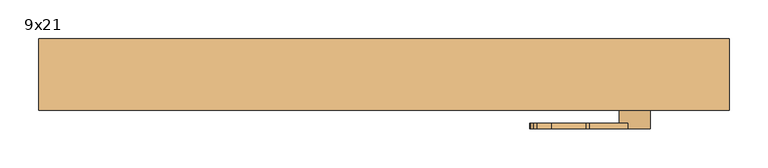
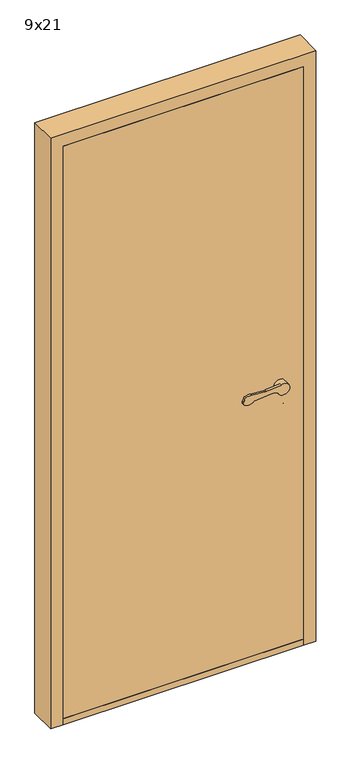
"""IFC4 building model written with IfcOpenShell, lengths in millimetres: door geometry, Innerdør Slett (Diplomat) : 9x21."""

from ifc_helpers import new_model, si_unit, point, frame, frame_2d, origin, origin_with_axes, place, context, project, spatial, polyline, circle_curve, trimmed, segment, composite_curve, outline, extrude, source, transform, mapped, element, save
from ifc_brep_helpers import plane_surface, cylinder_surface, revolved_surface, advanced_brep


def door_9x21_90b0ac62(model_context):
    return source(origin(), model_context, "Body", "SolidModel", [
        advanced_brep(
        [(343.9611305, 9.0, 949.1175955), (338.8520664, 9.0, 949.9496913), (276.0476109, 9.0, 943.6260011), (246.721536, 9.0, 938.7393398), (241.8691983, 9.0, 951.8913379), (245.505009, 9.0, 959.9624074), (250.3175669, 9.0, 964.8810513), (268.8963175, 9.0, 967.2639242), (313.6202158, 9.0, 964.1804415), (318.6891233, 9.0, 964.26032), (367.2687793, 9.0, 969.1517356), (396.379633, 9.0, 951.3474568), (358.3841161, 9.0, 942.6204086), (318.6891233, 1.8915284, 964.26032), (313.6202158, 1.8915284, 964.1804415), (268.8963175, 1.8915284, 967.2639242), (250.3175669, 1.8915284, 964.8810513), (245.505009, 1.8915284, 959.9624074), (241.8691983, 1.8915284, 951.8913379), (246.721536, 1.8915284, 938.7393398), (276.0476109, 1.8915284, 943.6260011), (338.8520664, 1.8915284, 949.9496913), (343.9611305, 1.8915284, 949.1175955), (358.3841161, 1.8915284, 942.6204086), (356.379633, 1.8915284, 951.3474568), (367.2687793, 1.8915284, 969.1517356), (396.379633, -26.0, 951.3474568), (356.379633, -26.0, 951.3474568)],
        [
            (0, 1, circle_curve(frame((339.8538865, 9.0, 940.0), z_axis=(0.0, -1.0, 0.0), x_axis=(-0.9949691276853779, 0.0, -0.10018200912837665)), 10.0)),
            (1, 2),
            (2, 3, circle_curve(frame((257.8569644, 9.0, 962.352734), z_axis=(0.0, 1.0, 0.0), x_axis=(-0.9949691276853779, 0.0, -0.10018200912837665)), 26.1072815)),
            (3, 4, circle_curve(frame((250.9867937, 9.0, 947.7840939), z_axis=(0.0, 1.0, 0.0), x_axis=(-0.9949691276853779, 0.0, -0.10018200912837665)), 10.0)),
            (4, 5),
            (5, 6, circle_curve(frame((254.6226045, 9.0, 955.8551634), z_axis=(0.0, 1.0, 0.0), x_axis=(-0.9949691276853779, 0.0, -0.10018200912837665)), 10.0)),
            (6, 7, circle_curve(frame((263.2326797, 9.0, 937.8033877), z_axis=(0.0, 1.0, 0.0), x_axis=(-0.9949691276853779, 0.0, -0.10018200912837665)), 30.0)),
            (7, 8),
            (8, 9, circle_curve(frame((315.683663, 9.0, 994.1093938), z_axis=(0.0, -1.0, 0.0), x_axis=(-0.9949691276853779, 0.0, -0.10018200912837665)), 30.0)),
            (9, 10),
            (10, 11, circle_curve(frame((376.379633, 9.0, 951.3474568), z_axis=(0.0, 1.0, 0.0), x_axis=(-1.0, 0.0, 0.0)), 20.0)),
            (11, 12, circle_curve(frame((376.379633, 9.0, 951.3474568), z_axis=(0.0, 1.0, 0.0), x_axis=(-1.0, 0.0, 0.0)), 20.0)),
            (12, 0),
            (13, 14, circle_curve(frame((315.683663, 1.8915284, 994.1093938), z_axis=(0.0, 1.0, 0.0), x_axis=(-0.9949691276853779, 0.0, -0.10018200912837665)), 30.0)),
            (14, 15),
            (15, 16, circle_curve(frame((263.2326797, 1.8915284, 937.8033877), z_axis=(0.0, -1.0, 0.0), x_axis=(-0.9949691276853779, 0.0, -0.10018200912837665)), 30.0)),
            (16, 17, circle_curve(frame((254.6226045, 1.8915284, 955.8551634), z_axis=(0.0, -1.0, 0.0), x_axis=(-0.9949691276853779, 0.0, -0.10018200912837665)), 10.0)),
            (17, 18),
            (18, 19, circle_curve(frame((250.9867937, 1.8915284, 947.7840939), z_axis=(0.0, -1.0, 0.0), x_axis=(-0.9949691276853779, 0.0, -0.10018200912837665)), 10.0)),
            (19, 20, circle_curve(frame((257.8569644, 1.8915284, 962.352734), z_axis=(0.0, -1.0, 0.0), x_axis=(-0.9949691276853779, 0.0, -0.10018200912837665)), 26.1072815)),
            (20, 21),
            (21, 22, circle_curve(frame((339.8538865, 1.8915284, 940.0), z_axis=(0.0, 1.0, 0.0), x_axis=(-0.9949691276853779, 0.0, -0.10018200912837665)), 10.0)),
            (22, 23),
            (23, 24, circle_curve(frame((376.379633, 1.8915284, 951.3474568), z_axis=(0.0, 1.0, 0.0), x_axis=(-1.0, 0.0, 0.0)), 20.0)),
            (24, 25, circle_curve(frame((376.379633, 1.8915284, 951.3474568), z_axis=(0.0, 1.0, 0.0), x_axis=(-1.0, 0.0, 0.0)), 20.0)),
            (25, 13),
            (9, 13),
            (25, 10),
            (22, 0),
            (12, 23),
            (21, 1),
            (20, 2),
            (19, 3),
            (18, 4),
            (17, 5),
            (16, 6),
            (15, 7),
            (14, 8),
            (26, 27, circle_curve(frame((376.379633, -26.0, 951.3474568), z_axis=(0.0, -1.0, 0.0), x_axis=(-1.0, 0.0, 0.0)), 20.0)),
            (27, 26, circle_curve(frame((376.379633, -26.0, 951.3474568), z_axis=(0.0, -1.0, 0.0), x_axis=(-1.0, 0.0, 0.0)), 20.0)),
            (27, 24),
            (11, 26),
        ],
        [
            plane_surface(frame((367.6960588, 9.0, 969.1947577), z_axis=(0.0, 1.0000000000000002, 0.0), x_axis=(0.9949691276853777, 0.0, 0.10018200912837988))),
            plane_surface(frame((367.6960588, 1.8915284, 969.1947577), z_axis=(0.0, -1.0000000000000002, 0.0), x_axis=(-0.9949691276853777, 0.0, -0.10018200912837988))),
            plane_surface(frame((318.6891233, 9.0, 964.26032), z_axis=(-0.10018200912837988, 0.0, 0.9949691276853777), x_axis=(0.0, -1.0, 0.0))),
            plane_surface(frame((376.9687366, 9.0, 934.2485115), z_axis=(-0.41072439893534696, 0.0, -0.91175954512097), x_axis=(0.0, -1.0, 0.0))),
            revolved_surface(polyline([(329.9041952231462, 1.8915284, 938.9981799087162), (329.9041952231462, 9.0, 938.9981799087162)]), (339.8538865, 1.8915284, 940.0), (0.0, -1.0, 0.0)),
            plane_surface(frame((338.8520664, 9.0, 949.9496913), z_axis=(0.10018200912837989, 0.0, -0.9949691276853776), x_axis=(0.0, -1.0, 0.0))),
            cylinder_surface(frame((257.8569644, 1.8915284, 962.352734), z_axis=(0.0, 1.0, 0.0), x_axis=(-0.9949691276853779, 0.0, -0.10018200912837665)), 26.1072815),
            cylinder_surface(frame((250.9867937, 1.8915284, 947.7840939), z_axis=(0.0, 1.0, 0.0), x_axis=(-0.9949691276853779, 0.0, -0.10018200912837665)), 10.0),
            plane_surface(frame((241.8691983, 9.0, 951.8913379), z_axis=(-0.9117595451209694, 0.0, 0.41072439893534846), x_axis=(0.0, -1.0, 0.0))),
            cylinder_surface(frame((254.6226045, 1.8915284, 955.8551634), z_axis=(0.0, 1.0, 0.0), x_axis=(-0.9949691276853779, 0.0, -0.10018200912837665)), 10.0),
            cylinder_surface(frame((263.2326797, 1.8915284, 937.8033877), z_axis=(0.0, 1.0, 0.0), x_axis=(-0.9949691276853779, 0.0, -0.10018200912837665)), 30.0),
            plane_surface(frame((268.8963175, 9.0, 967.2639242), z_axis=(0.06878157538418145, 0.0, 0.9976317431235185), x_axis=(0.0, -1.0, 0.0))),
            revolved_surface(polyline([(285.8345891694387, 1.8915284, 991.1039335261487), (285.8345891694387, 9.0, 991.1039335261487)]), (315.683663, 1.8915284, 994.1093938), (0.0, -1.0, 0.0)),
            plane_surface(frame((356.379633, -26.0, 951.3474568), z_axis=(0.0, -1.0, 0.0), x_axis=(0.0, 0.0, -1.0))),
            cylinder_surface(frame((376.379633, -26.0, 951.3474568), z_axis=(0.0, 1.0, 0.0), x_axis=(-1.0, 0.0, 0.0)), 20.0),
        ],
        [
            (0, [[1, 2, 3, 4, 5, 6, 7, 8, 9, 10, 11, 12, 13]]),
            (1, [[14, 15, 16, 17, 18, 19, 20, 21, 22, 23, 24, 25, 26]]),
            (2, [[27, -26, 28, -10]]),
            (3, [[29, -13, 30, -23]]),
            (4, [[-1, -29, -22, 31]]),
            (5, [[-2, -31, -21, 32]]),
            (6, [[-3, -32, -20, 33]]),
            (7, [[-4, -33, -19, 34]]),
            (8, [[-5, -34, -18, 35]]),
            (9, [[-6, -35, -17, 36]]),
            (10, [[-7, -36, -16, 37]]),
            (11, [[-8, -37, -15, 38]]),
            (12, [[-9, -38, -14, -27]]),
            (13, [[39, 40]]),
            (14, [[-40, 41, -24, -30, -12, 42]]),
            (14, [[-39, -42, -11, -28, -25, -41]]),
        ],
    ),
        extrude(outline(composite_curve([segment(trimmed(circle_curve(frame_2d((866.3474568, 376.379633)), 20.0), [point((866.3474568, 396.379633))], [point((866.3474568, 356.379633))], False, "CARTESIAN"), True, "CONTINUOUS"), segment(trimmed(circle_curve(frame_2d((866.3474568, 376.379633)), 20.0), [point((866.3474568, 356.379633))], [point((866.3474568, 396.379633))], False, "CARTESIAN"), True, "CONTINUOUS")], self_intersect=False)), frame((0.0, -26.0, 0.0), z_axis=(0.0, 1.0, 0.0), x_axis=(0.0, 0.0, 1.0)), (0.0, 0.0, 1.0), 5.0),
        advanced_brep(
        [(343.9611305, -100.0, 949.1175955), (358.3841161, -100.0, 942.6204086), (396.379633, -100.0, 951.3474568), (367.2687793, -100.0, 969.1517356), (318.6891233, -100.0, 964.26032), (313.6202158, -100.0, 964.1804415), (268.8963175, -100.0, 967.2639242), (250.3175669, -100.0, 964.8810513), (245.505009, -100.0, 959.9624074), (241.8691983, -100.0, 951.8913379), (246.721536, -100.0, 938.7393398), (276.0476109, -100.0, 943.6260011), (338.8520664, -100.0, 949.9496913), (318.6891233, -92.8915284, 964.26032), (367.2687793, -92.8915284, 969.1517356), (356.379633, -92.8915284, 951.3474568), (358.3841161, -92.8915284, 942.6204086), (343.9611305, -92.8915284, 949.1175955), (338.8520664, -92.8915284, 949.9496913), (276.0476109, -92.8915284, 943.6260011), (246.721536, -92.8915284, 938.7393398), (241.8691983, -92.8915284, 951.8913379), (245.505009, -92.8915284, 959.9624074), (250.3175669, -92.8915284, 964.8810513), (268.8963175, -92.8915284, 967.2639242), (313.6202158, -92.8915284, 964.1804415), (396.379633, -65.0, 951.3474568), (356.379633, -65.0, 951.3474568)],
        [
            (0, 1),
            (1, 2, circle_curve(frame((376.379633, -100.0, 951.3474568), z_axis=(0.0, -1.0, 0.0), x_axis=(-1.0, 0.0, 0.0)), 20.0)),
            (2, 3, circle_curve(frame((376.379633, -100.0, 951.3474568), z_axis=(0.0, -1.0, 0.0), x_axis=(-1.0, 0.0, 0.0)), 20.0)),
            (3, 4),
            (4, 5, circle_curve(frame((315.683663, -100.0, 994.1093938), z_axis=(0.0, 1.0, 0.0), x_axis=(-0.9949691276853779, 0.0, -0.10018200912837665)), 30.0)),
            (5, 6),
            (6, 7, circle_curve(frame((263.2326797, -100.0, 937.8033877), z_axis=(0.0, -1.0, 0.0), x_axis=(-0.9949691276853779, 0.0, -0.10018200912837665)), 30.0)),
            (7, 8, circle_curve(frame((254.6226045, -100.0, 955.8551634), z_axis=(0.0, -1.0, 0.0), x_axis=(-0.9949691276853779, 0.0, -0.10018200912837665)), 10.0)),
            (8, 9),
            (9, 10, circle_curve(frame((250.9867937, -100.0, 947.7840939), z_axis=(0.0, -1.0, 0.0), x_axis=(-0.9949691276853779, 0.0, -0.10018200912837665)), 10.0)),
            (10, 11, circle_curve(frame((257.8569644, -100.0, 962.352734), z_axis=(0.0, -1.0, 0.0), x_axis=(-0.9949691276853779, 0.0, -0.10018200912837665)), 26.1072815)),
            (11, 12),
            (12, 0, circle_curve(frame((339.8538865, -100.0, 940.0), z_axis=(0.0, 1.0, 0.0), x_axis=(-0.9949691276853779, 0.0, -0.10018200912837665)), 10.0)),
            (13, 14),
            (14, 15, circle_curve(frame((376.379633, -92.8915284, 951.3474568), z_axis=(0.0, -1.0, 0.0), x_axis=(-1.0, 0.0, 0.0)), 20.0)),
            (15, 16, circle_curve(frame((376.379633, -92.8915284, 951.3474568), z_axis=(0.0, -1.0, 0.0), x_axis=(-1.0, 0.0, 0.0)), 20.0)),
            (16, 17),
            (17, 18, circle_curve(frame((339.8538865, -92.8915284, 940.0), z_axis=(0.0, -1.0, 0.0), x_axis=(-0.9949691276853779, 0.0, -0.10018200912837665)), 10.0)),
            (18, 19),
            (19, 20, circle_curve(frame((257.8569644, -92.8915284, 962.352734), z_axis=(0.0, 1.0, 0.0), x_axis=(-0.9949691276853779, 0.0, -0.10018200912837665)), 26.1072815)),
            (20, 21, circle_curve(frame((250.9867937, -92.8915284, 947.7840939), z_axis=(0.0, 1.0, 0.0), x_axis=(-0.9949691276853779, 0.0, -0.10018200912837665)), 10.0)),
            (21, 22),
            (22, 23, circle_curve(frame((254.6226045, -92.8915284, 955.8551634), z_axis=(0.0, 1.0, 0.0), x_axis=(-0.9949691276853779, 0.0, -0.10018200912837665)), 10.0)),
            (23, 24, circle_curve(frame((263.2326797, -92.8915284, 937.8033877), z_axis=(0.0, 1.0, 0.0), x_axis=(-0.9949691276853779, 0.0, -0.10018200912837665)), 30.0)),
            (24, 25),
            (25, 13, circle_curve(frame((315.683663, -92.8915284, 994.1093938), z_axis=(0.0, -1.0, 0.0), x_axis=(-0.9949691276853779, 0.0, -0.10018200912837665)), 30.0)),
            (3, 14),
            (13, 4),
            (16, 1),
            (0, 17),
            (12, 18),
            (11, 19),
            (10, 20),
            (9, 21),
            (8, 22),
            (7, 23),
            (6, 24),
            (5, 25),
            (26, 27, circle_curve(frame((376.379633, -65.0, 951.3474568), z_axis=(0.0, 1.0, 0.0), x_axis=(-1.0, 0.0, 0.0)), 20.0)),
            (27, 26, circle_curve(frame((376.379633, -65.0, 951.3474568), z_axis=(0.0, 1.0, 0.0), x_axis=(-1.0, 0.0, 0.0)), 20.0)),
            (26, 2),
            (15, 27),
        ],
        [
            plane_surface(frame((367.6960588, -100.0, 969.1947577), z_axis=(0.0, -1.0000000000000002, 0.0), x_axis=(0.9949691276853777, 0.0, 0.10018200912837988))),
            plane_surface(frame((367.6960588, -92.8915284, 969.1947577), z_axis=(0.0, 1.0000000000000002, 0.0), x_axis=(-0.9949691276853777, 0.0, -0.10018200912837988))),
            plane_surface(frame((318.6891233, -100.0, 964.26032), z_axis=(-0.10018200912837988, 0.0, 0.9949691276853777), x_axis=(0.0, 1.0, 0.0))),
            plane_surface(frame((376.9687366, -100.0, 934.2485115), z_axis=(-0.41072439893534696, 0.0, -0.91175954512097), x_axis=(0.0, 1.0, 0.0))),
            revolved_surface(polyline([(329.9041952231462, -92.8915284, 938.9981799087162), (329.9041952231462, -100.0, 938.9981799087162)]), (339.8538865, -92.8915284, 940.0), (0.0, 1.0, 0.0)),
            plane_surface(frame((338.8520664, -100.0, 949.9496913), z_axis=(0.10018200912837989, 0.0, -0.9949691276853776), x_axis=(0.0, 1.0, 0.0))),
            cylinder_surface(frame((257.8569644, -92.8915284, 962.352734), z_axis=(0.0, -1.0, 0.0), x_axis=(-0.9949691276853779, 0.0, -0.10018200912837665)), 26.1072815),
            cylinder_surface(frame((250.9867937, -92.8915284, 947.7840939), z_axis=(0.0, -1.0, 0.0), x_axis=(-0.9949691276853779, 0.0, -0.10018200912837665)), 10.0),
            plane_surface(frame((241.8691983, -100.0, 951.8913379), z_axis=(-0.9117595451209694, 0.0, 0.41072439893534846), x_axis=(0.0, 1.0, 0.0))),
            cylinder_surface(frame((254.6226045, -92.8915284, 955.8551634), z_axis=(0.0, -1.0, 0.0), x_axis=(-0.9949691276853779, 0.0, -0.10018200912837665)), 10.0),
            cylinder_surface(frame((263.2326797, -92.8915284, 937.8033877), z_axis=(0.0, -1.0, 0.0), x_axis=(-0.9949691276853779, 0.0, -0.10018200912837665)), 30.0),
            plane_surface(frame((268.8963175, -100.0, 967.2639242), z_axis=(0.06878157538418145, 0.0, 0.9976317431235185), x_axis=(0.0, 1.0, 0.0))),
            revolved_surface(polyline([(285.8345891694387, -92.8915284, 991.1039335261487), (285.8345891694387, -100.0, 991.1039335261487)]), (315.683663, -92.8915284, 994.1093938), (0.0, 1.0, 0.0)),
            plane_surface(frame((356.379633, -65.0, 951.3474568), z_axis=(0.0, 1.0, 0.0), x_axis=(0.0, 0.0, -1.0))),
            cylinder_surface(frame((376.379633, -65.0, 951.3474568), z_axis=(0.0, -1.0, 0.0), x_axis=(-1.0, 0.0, 0.0)), 20.0),
        ],
        [
            (0, [[1, 2, 3, 4, 5, 6, 7, 8, 9, 10, 11, 12, 13]]),
            (1, [[14, 15, 16, 17, 18, 19, 20, 21, 22, 23, 24, 25, 26]]),
            (2, [[-4, 27, -14, 28]]),
            (3, [[-17, 29, -1, 30]]),
            (4, [[31, -18, -30, -13]]),
            (5, [[32, -19, -31, -12]]),
            (6, [[33, -20, -32, -11]]),
            (7, [[34, -21, -33, -10]]),
            (8, [[35, -22, -34, -9]]),
            (9, [[36, -23, -35, -8]]),
            (10, [[37, -24, -36, -7]]),
            (11, [[38, -25, -37, -6]]),
            (12, [[-28, -26, -38, -5]]),
            (13, [[39, 40]]),
            (14, [[41, -2, -29, -16, 42, -39]]),
            (14, [[-42, -15, -27, -3, -41, -40]]),
        ],
    ),
        extrude(outline(composite_curve([segment(trimmed(circle_curve(frame_2d((866.3474568, 376.379633)), 20.0), [point((866.3474568, 396.379633))], [point((866.3474568, 356.379633))], False, "CARTESIAN"), True, "CONTINUOUS"), segment(trimmed(circle_curve(frame_2d((866.3474568, 376.379633)), 20.0), [point((866.3474568, 356.379633))], [point((866.3474568, 396.379633))], False, "CARTESIAN"), True, "CONTINUOUS")], self_intersect=False)), frame((0.0, -70.0, 0.0), z_axis=(0.0, 1.0, 0.0), x_axis=(0.0, 0.0, 1.0)), (0.0, 0.0, 1.0), 5.0),
        extrude(outline(polyline([(456.379633, 16.0), (456.379633, -76.0), (-349.620367, -76.0), (-349.620367, 16.0), (456.379633, 16.0)])), origin_with_axes(), (0.0, 0.0, 1.0), 22.0),
        extrude(outline(polyline([(456.379633, -26.0), (456.379633, -76.0), (-349.620367, -76.0), (-349.620367, -26.0), (456.379633, -26.0)])), frame((0.0, 0.0, 22.0), z_axis=(0.0, 0.0, 1.0), x_axis=(1.0, 0.0, 0.0)), (0.0, 0.0, 1.0), 2031.0),
        extrude(outline(polyline([(0.0, -349.620367), (2053.0, -349.620367), (2053.0, 456.379633), (0.0, 456.379633), (0.0, 498.379633), (2095.0, 498.379633), (2095.0, -391.620367), (0.0, -391.620367), (0.0, -349.620367)])), frame((0.0, -76.0, 0.0), z_axis=(0.0, 1.0, 0.0), x_axis=(0.0, 0.0, 1.0)), (0.0, 0.0, 1.0), 92.0),
    ])


if __name__ == "__main__":
    model = new_model("IFC4")
    model_context = context("Model", 3, world=origin())
    ifc_project = project(units=[si_unit("LENGTHUNIT", "METRE", prefix="MILLI")], contexts=[model_context])
    site = spatial("IfcSite", under=ifc_project)
    building = spatial("IfcBuilding", under=site)
    placement = place(None, origin())
    door_9x21_shape = door_9x21_90b0ac62(model_context)
    element("IfcDoor", 1, ObjectType="Innerdør Slett (Diplomat) : 9x21", at=placement, inside=building, context=model_context, shape_type="MappedRepresentation", body=[
        mapped(door_9x21_shape, transform((0.0, 0.0, 0.0), x_axis=(1.0, 0.0, 0.0), y_axis=(0.0, 1.0, 0.0), z_axis=(0.0, 0.0, 1.0))),
    ])
    save(model, "model.ifc")
